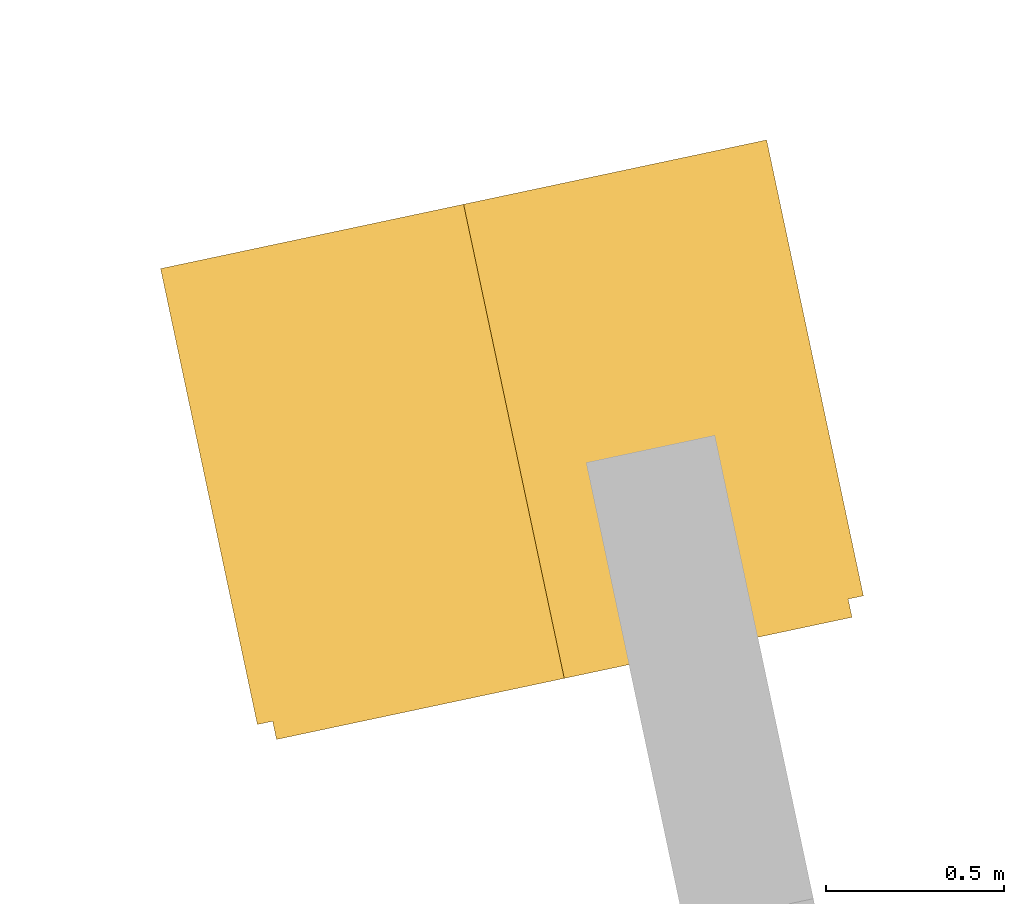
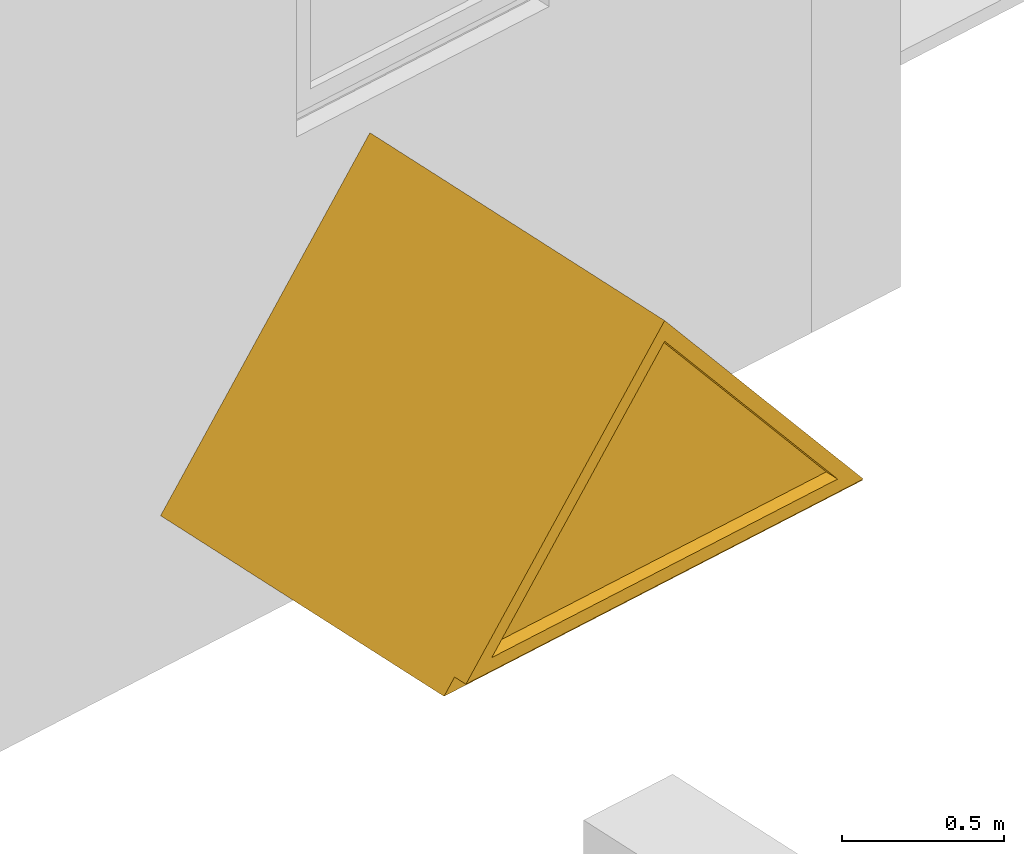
# One storey, part 14 of 22: 1 window.
"""IFC2X3 building model written with IfcOpenShell, lengths in centimetres."""

from ifc_helpers import new_model, entity, si_unit, converted_unit, derived_unit, direction, frame, origin, place, context, subcontext, project, spatial, polyline, outline, extrude, source, transform, mapped, material, material_list, type_object, type_shapes, element, save


model = new_model("IFC2X3")

# Units and contexts
model_context = context("Model", 3, precision=0.001, world=origin(), true_north=direction((6.12303176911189e-17, 1.0)))
body_context = subcontext(model_context, "Body", "Model", "MODEL_VIEW")
ifc_project = project(units=[si_unit("LENGTHUNIT", "METRE", prefix="CENTI"), si_unit("AREAUNIT", "SQUARE_METRE"), si_unit("VOLUMEUNIT", "CUBIC_METRE"), converted_unit("PLANEANGLEUNIT", "DEGREE", entity("IfcRatioMeasure", 0.0174532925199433), si_unit("PLANEANGLEUNIT", "RADIAN"), dimensions=[0, 0, 0, 0, 0, 0, 0]), si_unit("MASSUNIT", "GRAM", prefix="KILO"), derived_unit("MASSDENSITYUNIT", [(si_unit("MASSUNIT", "GRAM", prefix="KILO"), 1), (si_unit("LENGTHUNIT", "METRE"), -3)]), derived_unit("IONCONCENTRATIONUNIT", [(si_unit("MASSUNIT", "GRAM", prefix="KILO"), 1), (si_unit("LENGTHUNIT", "METRE"), -3)]), derived_unit("MOMENTOFINERTIAUNIT", [(si_unit("LENGTHUNIT", "METRE"), 4)]), si_unit("TIMEUNIT", "SECOND"), si_unit("FREQUENCYUNIT", "HERTZ"), si_unit("THERMODYNAMICTEMPERATUREUNIT", "DEGREE_CELSIUS"), derived_unit("THERMALTRANSMITTANCEUNIT", [(si_unit("MASSUNIT", "GRAM", prefix="KILO"), 1), (si_unit("THERMODYNAMICTEMPERATUREUNIT", "KELVIN"), -1), (si_unit("TIMEUNIT", "SECOND"), -3)]), derived_unit("THERMALCONDUCTANCEUNIT", [(si_unit("MASSUNIT", "GRAM", prefix="KILO"), 1), (si_unit("THERMODYNAMICTEMPERATUREUNIT", "KELVIN"), -1), (si_unit("TIMEUNIT", "SECOND"), -3), (si_unit("LENGTHUNIT", "METRE"), 1)]), derived_unit("VOLUMETRICFLOWRATEUNIT", [(si_unit("LENGTHUNIT", "METRE"), 3), (si_unit("TIMEUNIT", "SECOND"), -1)]), derived_unit("MASSFLOWRATEUNIT", [(si_unit("MASSUNIT", "GRAM", prefix="KILO"), 1), (si_unit("TIMEUNIT", "SECOND"), -1)]), derived_unit("ROTATIONALFREQUENCYUNIT", [(si_unit("TIMEUNIT", "SECOND"), -1)]), si_unit("ELECTRICCURRENTUNIT", "AMPERE"), si_unit("ELECTRICVOLTAGEUNIT", "VOLT"), si_unit("POWERUNIT", "WATT"), si_unit("FORCEUNIT", "NEWTON", prefix="KILO"), si_unit("ILLUMINANCEUNIT", "LUX"), si_unit("LUMINOUSFLUXUNIT", "LUMEN"), si_unit("LUMINOUSINTENSITYUNIT", "CANDELA"), derived_unit("USERDEFINED", [(si_unit("MASSUNIT", "GRAM", prefix="KILO"), -1), (si_unit("LENGTHUNIT", "METRE"), -2), (si_unit("TIMEUNIT", "SECOND"), 3), (si_unit("LUMINOUSFLUXUNIT", "LUMEN"), 1)]), derived_unit("USERDEFINED", [(si_unit("MASSUNIT", "GRAM", prefix="KILO"), 1), (si_unit("TIMEUNIT", "SECOND"), -3), (si_unit("LENGTHUNIT", "METRE"), 3), (si_unit("ELECTRICCURRENTUNIT", "AMPERE"), -2)]), derived_unit("SOUNDPOWERUNIT", [(si_unit("MASSUNIT", "GRAM", prefix="KILO"), 1), (si_unit("TIMEUNIT", "SECOND"), -3), (si_unit("LENGTHUNIT", "METRE"), 2)]), derived_unit("SOUNDPRESSUREUNIT", [(si_unit("MASSUNIT", "GRAM", prefix="KILO"), 1), (si_unit("LENGTHUNIT", "METRE"), -1), (si_unit("TIMEUNIT", "SECOND"), -2)]), derived_unit("LINEARVELOCITYUNIT", [(si_unit("LENGTHUNIT", "METRE"), 1), (si_unit("TIMEUNIT", "SECOND"), -1)]), si_unit("PRESSUREUNIT", "PASCAL"), derived_unit("USERDEFINED", [(si_unit("MASSUNIT", "GRAM", prefix="KILO"), 1), (si_unit("LENGTHUNIT", "METRE"), -2), (si_unit("TIMEUNIT", "SECOND"), -2)]), derived_unit("LINEARFORCEUNIT", [(si_unit("MASSUNIT", "GRAM", prefix="KILO"), 1), (si_unit("TIMEUNIT", "SECOND"), -2)]), derived_unit("PLANARFORCEUNIT", [(si_unit("MASSUNIT", "GRAM", prefix="KILO"), 1), (si_unit("LENGTHUNIT", "METRE"), -1), (si_unit("TIMEUNIT", "SECOND"), -2)]), derived_unit("SPECIFICHEATCAPACITYUNIT", [(si_unit("THERMODYNAMICTEMPERATUREUNIT", "KELVIN"), -1), (si_unit("LENGTHUNIT", "METRE"), 2), (si_unit("TIMEUNIT", "SECOND"), -2)]), derived_unit("HEATINGVALUEUNIT", [(si_unit("LENGTHUNIT", "METRE"), 2), (si_unit("TIMEUNIT", "SECOND"), -2)]), derived_unit("VAPORPERMEABILITYUNIT", [(si_unit("LENGTHUNIT", "METRE"), -1), (si_unit("TIMEUNIT", "SECOND"), 1)]), derived_unit("DYNAMICVISCOSITYUNIT", [(si_unit("MASSUNIT", "GRAM", prefix="KILO"), 1), (si_unit("TIMEUNIT", "SECOND"), -1), (si_unit("LENGTHUNIT", "METRE"), -1)]), derived_unit("THERMALEXPANSIONCOEFFICIENTUNIT", [(si_unit("THERMODYNAMICTEMPERATUREUNIT", "KELVIN"), -1)]), derived_unit("MODULUSOFELASTICITYUNIT", [(si_unit("MASSUNIT", "GRAM", prefix="KILO"), 1), (si_unit("LENGTHUNIT", "METRE"), -1), (si_unit("TIMEUNIT", "SECOND"), -2)]), derived_unit("ISOTHERMALMOISTURECAPACITYUNIT", [(si_unit("LENGTHUNIT", "METRE"), 3), (si_unit("MASSUNIT", "GRAM", prefix="KILO"), -1)]), derived_unit("MOISTUREDIFFUSIVITYUNIT", [(si_unit("TIMEUNIT", "SECOND"), -1), (si_unit("LENGTHUNIT", "METRE"), 2)])], contexts=[model_context])

# Site, building, storey
site_placement = place(None, frame((14083.8920177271, -6853.25409548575, 6900.0), z_axis=(0.0, 0.0, 1.0), x_axis=(0.978188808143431, 0.207717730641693, 0.0)))
site = spatial("IfcSite", under=ifc_project, at=site_placement, Name="Surface", CompositionType="ELEMENT")
building_placement = place(site_placement, origin())
building = spatial("IfcBuilding", under=site, at=building_placement, CompositionType="ELEMENT")
storey_placement = place(building_placement, frame((0.0, 0.0, -17.0)))
storey = spatial("IfcBuildingStorey", under=building, at=storey_placement, Name="Rez de chaussée (SD)", CompositionType="ELEMENT", Elevation=-16.9999999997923)

# Window
ifc_material_1 = material(Name="__ METAL_gris foncé (menuiseries acier)______________________TEST")
ifc_material_2 = material(Name="Fenêtre - Vitrage")
ifc_material_list = material_list([ifc_material_1, ifc_material_2])
window_style = type_object("IfcWindowStyle", Name="Fenetre chien assis:Fenetre chien assis", ConstructionType="NOTDEFINED", OperationType="NOTDEFINED", ParameterTakesPrecedence=False, Sizeable=False, material=ifc_material_list)
shared_shape = source(origin(), body_context, "Body", "SweptSolid", [
    extrude(outline(polyline([(-50.2508506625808, -42.1654702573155), (78.1969711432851, -42.1654702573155), (-27.9461204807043, 84.330940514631), (-50.2508506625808, -42.1654702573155)]), holes=[polyline([(-24.8840303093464, 72.9030644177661), (67.4744365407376, -37.1654702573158), (-44.2920826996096, -37.1654702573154), (-24.8840303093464, 72.9030644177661)])]), frame((-7432.64448995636, 14787.6724778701, 503.577532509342), z_axis=(0.0, 1.0, 0.0), x_axis=(0.642787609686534, 0.0, -0.766044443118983)), (0.0, 0.0, 1.0), 5.2262679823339),
    extrude(outline(polyline([(-86.9459271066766, -34.5393736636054), (86.9459271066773, -34.5393736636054), (0.0, 69.0787473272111), (-86.9459271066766, -34.5393736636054)])), frame((-7432.64448995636, 14792.8987458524, 500.096611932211), z_axis=(0.0, 1.0, 0.0), x_axis=(-1.0, 0.0, 0.0)), (0.0, 0.0, 1.0), 130.815973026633),
])
type_shapes(window_style, [shared_shape])
window_placement = place(storey_placement, frame((0.0, 0.0, 34.0)))
element("IfcWindow", 1, at=window_placement, inside=storey, type_object=window_style, material=ifc_material_list, Name="Fenetre chien assis:Fenetre chien assis", ObjectType="Fenetre chien assis:Fenetre chien assis", OverallHeight=103.618120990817, OverallWidth=173.891854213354, context=body_context, shape_type="MappedRepresentation", body=[
    mapped(shared_shape, transform((0.0, 0.0, 0.0), scale=1.0)),
])

save(model, "model.ifc")
